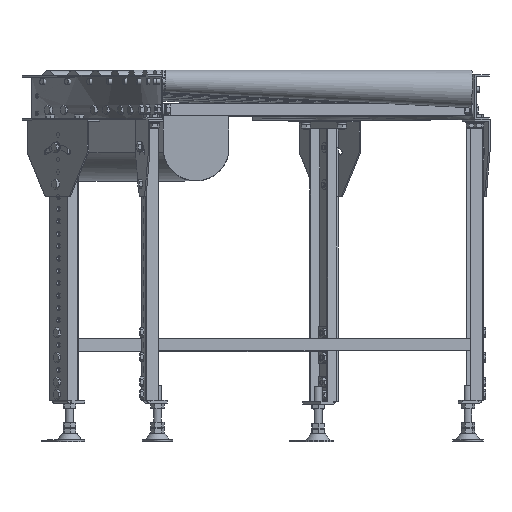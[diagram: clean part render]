
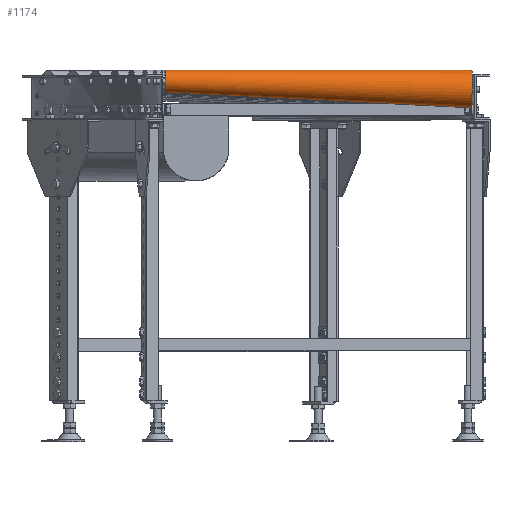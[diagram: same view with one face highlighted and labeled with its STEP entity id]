
A CAD part, top view. The second image highlights one B-rep face of the part: STEP entity #1174.
In plain terms, the highlighted free-form (B-spline) face has degree [2, 1] with [7, 2] control points.
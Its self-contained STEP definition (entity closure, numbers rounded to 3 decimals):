
#1174=ADVANCED_FACE('',(#3450),#3449,.T.);
#3449=( BOUNDED_SURFACE() B_SPLINE_SURFACE( 2,1,((#25821,#25822),(#25823,#25824),(#25825,#25826),(#25827,#25828),(#25829,#25830),(#25831,#25832),(#25833,#25834)), .UNSPECIFIED.,.T.,.F.,.F.) B_SPLINE_SURFACE_WITH_KNOTS((3,2,2,3),(2,2),(0.,0.333,0.667,1.),(0.,1.), .UNSPECIFIED. ) GEOMETRIC_REPRESENTATION_ITEM() RATIONAL_B_SPLINE_SURFACE(((1.,1.),(0.5,0.5),(1.,1.),(0.5,0.5),(1.,1.),(0.5,0.5),(1.,1.))) REPRESENTATION_ITEM('') SURFACE() );
#3450=FACE_OUTER_BOUND('',#25835,.T.);
#25821=CARTESIAN_POINT('',(905.276,-11.419,-19.835));
#25822=CARTESIAN_POINT('',(1525.27,-19.213,-33.473));
#25823=CARTESIAN_POINT('',(905.276,-45.48,-0.37));
#25824=CARTESIAN_POINT('',(1525.27,-76.508,-0.731));
#25825=CARTESIAN_POINT('',(903.57,-45.286,-39.563));
#25826=CARTESIAN_POINT('',(1522.399,-76.181,-66.659));
#25827=CARTESIAN_POINT('',(901.863,-45.091,-78.757));
#25828=CARTESIAN_POINT('',(1519.529,-75.853,-132.587));
#25829=CARTESIAN_POINT('',(903.57,-11.224,-59.028));
#25830=CARTESIAN_POINT('',(1522.399,-18.885,-99.401));
#25831=CARTESIAN_POINT('',(905.276,22.642,-39.3));
#25832=CARTESIAN_POINT('',(1525.27,38.082,-66.216));
#25833=CARTESIAN_POINT('',(905.276,-11.419,-19.835));
#25834=CARTESIAN_POINT('',(1525.27,-19.213,-33.473));
#25835=EDGE_LOOP('',(#37345,#37346,#37347,#37348,#37349));
#37345=ORIENTED_EDGE('',*,*,#47931,.T.);
#37346=ORIENTED_EDGE('',*,*,#47941,.T.);
#37347=ORIENTED_EDGE('',*,*,#47934,.T.);
#37348=ORIENTED_EDGE('',*,*,#47941,.F.);
#37349=ORIENTED_EDGE('',*,*,#47930,.T.);
#47930=EDGE_CURVE('',#53232,#53233,#53234,.T.);
#47931=EDGE_CURVE('',#53233,#53232,#53240,.T.);
#47934=EDGE_CURVE('',#53260,#53260,#53261,.T.);
#47941=EDGE_CURVE('',#53232,#53260,#53307,.T.);
#53232=VERTEX_POINT('',#88453);
#53233=VERTEX_POINT('',#88454);
#53234=CIRCLE('',#88458,22.65);
#53240=CIRCLE('',#88462,22.65);
#53260=VERTEX_POINT('',#88473);
#53261=CIRCLE('',#88477,38.1);
#53307=(BOUNDED_CURVE() B_SPLINE_CURVE(1,(#88502,#88503),.UNSPECIFIED.,.F.,.F.) B_SPLINE_CURVE_WITH_KNOTS((2,2),(0.,1.),.UNSPECIFIED.) CURVE() GEOMETRIC_REPRESENTATION_ITEM() RATIONAL_B_SPLINE_CURVE((1.,1.)) REPRESENTATION_ITEM('') );
#88453=CARTESIAN_POINT('',(905.276,-11.419,-19.835));
#88454=CARTESIAN_POINT('',(903.001,-33.867,-59.116));
#88455=CARTESIAN_POINT('',(904.139,-22.643,-39.476));
#88456=DIRECTION('',(0.999,-0.025,-0.044));
#88457=DIRECTION('',(-0.05,-0.496,-0.867));
#88458=AXIS2_PLACEMENT_3D('',#88455,#88456,#88457);
#88459=CARTESIAN_POINT('',(904.139,-22.643,-39.476));
#88460=DIRECTION('',(0.999,-0.025,-0.044));
#88461=DIRECTION('',(-0.05,-0.496,-0.867));
#88462=AXIS2_PLACEMENT_3D('',#88459,#88460,#88461);
#88473=CARTESIAN_POINT('',(1525.27,-19.213,-33.473));
#88474=CARTESIAN_POINT('',(1523.356,-38.093,-66.511));
#88475=DIRECTION('',(-0.999,0.025,0.044));
#88476=DIRECTION('',(0.05,0.496,0.867));
#88477=AXIS2_PLACEMENT_3D('',#88474,#88475,#88476);
#88502=CARTESIAN_POINT('',(905.276,-11.419,-19.835));
#88503=CARTESIAN_POINT('',(1525.27,-19.213,-33.473));
